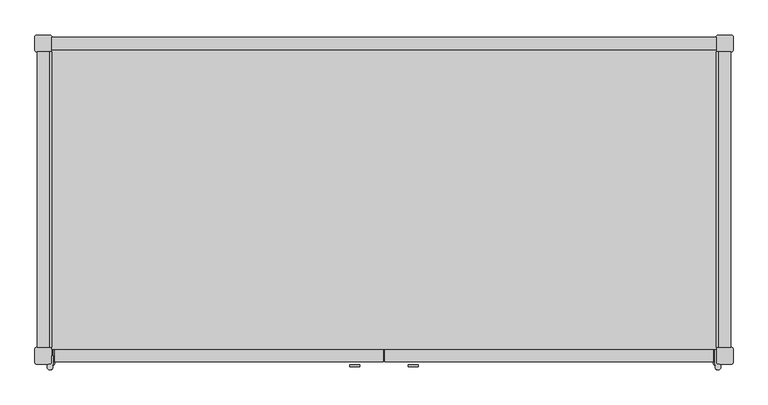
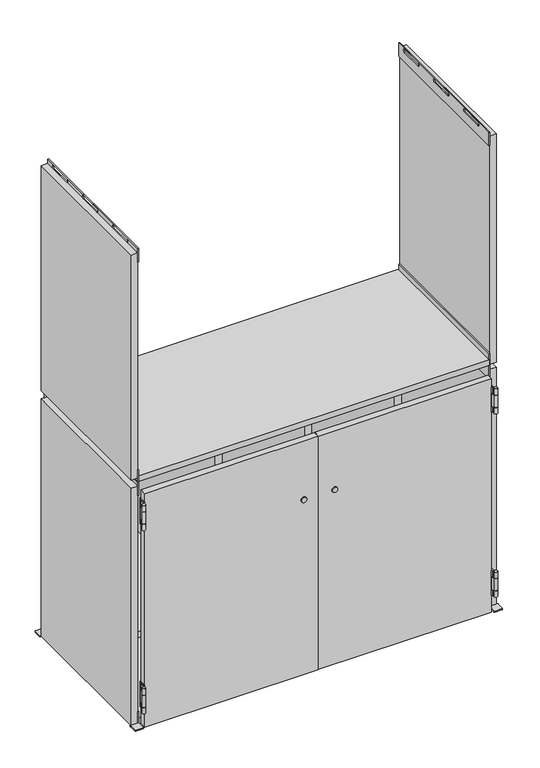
"""IFC4 building model written with IfcOpenShell, lengths in millimetres: furniture geometry, SmithSystem_AM_Storage_Education_Constellate_Stacking_DoubleMidCluster : Upper Cubbies + Lower Cubbies."""

from ifc_helpers import new_model, si_unit, point, frame, frame_2d, origin, place, context, project, spatial, polyline, circle_curve, trimmed, segment, composite_curve, outline, extrude, source, transform, mapped, element, save
from ifc_brep_helpers import plane_surface, cylinder_surface, revolved_surface, advanced_brep


def furniture_67cf47fb(model_context):
    return source(origin(), model_context, "Body", "SolidModel", [
        advanced_brep(
        [(-505.46, -247.65, 666.75), (-505.46, -236.22, 666.75), (-502.92, -236.22, 666.75), (-502.92, -247.65, 666.75), (-504.444, -250.698, 666.75), (-508.0, -248.92, 666.75), (-506.73, -248.92, 666.75), (-505.46, -247.65, 685.8), (-506.73, -248.92, 685.8), (-508.0, -248.92, 685.8), (-504.444, -250.698, 685.8), (-502.92, -247.65, 685.8), (-502.92, -236.22, 685.8), (-505.46, -236.22, 685.8)],
        [
            (0, 1),
            (1, 2),
            (2, 3),
            (3, 4, circle_curve(frame((-506.73, -247.65, 666.75), z_axis=(0.0, 0.0, -1.0), x_axis=(0.0, 1.0, 0.0)), 3.81)),
            (4, 5, circle_curve(frame((-508.0, -253.365, 666.75), z_axis=(0.0, 0.0, -1.0), x_axis=(0.0, 1.0, 0.0)), 4.445)),
            (5, 6),
            (6, 0, circle_curve(frame((-506.73, -247.65, 666.75), z_axis=(0.0, 0.0, 1.0), x_axis=(0.0, 1.0, 0.0)), 1.27)),
            (7, 8, circle_curve(frame((-506.73, -247.65, 685.8), z_axis=(0.0, 0.0, -1.0), x_axis=(0.0, 1.0, 0.0)), 1.27)),
            (8, 9),
            (9, 10, circle_curve(frame((-508.0, -253.365, 685.8), z_axis=(0.0, 0.0, 1.0), x_axis=(0.0, 1.0, 0.0)), 4.445)),
            (10, 11, circle_curve(frame((-506.73, -247.65, 685.8), z_axis=(0.0, 0.0, 1.0), x_axis=(0.0, 1.0, 0.0)), 3.81)),
            (11, 12),
            (12, 13),
            (13, 7),
            (2, 12),
            (11, 3),
            (1, 13),
            (0, 7),
            (6, 8),
            (5, 9),
            (4, 10),
        ],
        [
            plane_surface(frame((-505.46, -236.22, 666.75), z_axis=(0.0, 0.0, -1.0), x_axis=(0.0, 1.0, 0.0))),
            plane_surface(frame((-505.46, -236.22, 685.8), z_axis=(0.0, 0.0, 1.0), x_axis=(0.0, -1.0, 0.0))),
            plane_surface(frame((-502.92, -236.22, 666.75), z_axis=(1.0, 0.0, 0.0), x_axis=(0.0, 0.0, 1.0))),
            plane_surface(frame((-505.46, -236.22, 666.75), z_axis=(0.0, 1.0, 0.0), x_axis=(0.0, 0.0, 1.0))),
            plane_surface(frame((-505.46, -247.65, 666.75), z_axis=(-1.0, 0.0, 0.0), x_axis=(0.0, 0.0, 1.0))),
            revolved_surface(polyline([(-506.73, -246.38, 685.8), (-506.73, -246.38, 666.75)]), (-506.73, -247.65, 685.8), (0.0, 0.0, 1.0)),
            plane_surface(frame((-508.0, -248.92, 666.75), z_axis=(0.0, 1.0, 0.0), x_axis=(0.0, 0.0, 1.0))),
            cylinder_surface(frame((-508.0, -253.365, 685.8), z_axis=(0.0, 0.0, -1.0), x_axis=(0.0, 1.0, 0.0)), 4.445),
            cylinder_surface(frame((-506.73, -247.65, 685.8), z_axis=(0.0, 0.0, -1.0), x_axis=(0.0, 1.0, 0.0)), 3.81),
        ],
        [
            (0, [[1, 2, 3, 4, 5, 6, 7]]),
            (1, [[8, 9, 10, 11, 12, 13, 14]]),
            (2, [[-3, 15, -12, 16]]),
            (3, [[-2, 17, -13, -15]]),
            (4, [[-1, 18, -14, -17]]),
            (5, [[-7, 19, -8, -18]]),
            (6, [[-6, 20, -9, -19]]),
            (7, [[-5, 21, -10, -20]]),
            (8, [[-4, -16, -11, -21]]),
        ],
    ),
        advanced_brep(
        [(504.444, -250.698, 666.75), (502.92, -247.65, 666.75), (502.92, -226.06, 666.75), (505.46, -226.06, 666.75), (505.46, -247.65, 666.75), (506.73, -248.92, 666.75), (508.0, -248.92, 666.75), (504.444, -250.698, 685.8), (508.0, -248.92, 685.8), (506.73, -248.92, 685.8), (505.46, -247.65, 685.8), (505.46, -245.11, 685.8), (502.92, -245.11, 685.8), (502.92, -247.65, 685.8), (505.46, -226.06, 742.95), (505.46, -247.65, 742.95), (505.46, -247.65, 723.9), (505.46, -245.11, 723.9), (502.92, -245.11, 723.9), (502.92, -247.65, 723.9), (502.92, -247.65, 742.95), (502.92, -226.06, 742.95), (504.444, -250.698, 742.95), (508.0, -248.92, 742.95), (506.73, -248.92, 742.95), (506.73, -248.92, 723.9), (508.0, -248.92, 723.9), (504.444, -250.698, 723.9)],
        [
            (0, 1, circle_curve(frame((506.73, -247.65, 666.75), z_axis=(0.0, 0.0, -1.0), x_axis=(0.0, 1.0, 0.0)), 3.81)),
            (1, 2),
            (2, 3),
            (3, 4),
            (4, 5, circle_curve(frame((506.73, -247.65, 666.75), z_axis=(0.0, 0.0, 1.0), x_axis=(0.0, 1.0, 0.0)), 1.27)),
            (5, 6),
            (6, 0, circle_curve(frame((508.0, -253.365, 666.75), z_axis=(0.0, 0.0, -1.0), x_axis=(0.0, 1.0, 0.0)), 4.445)),
            (7, 8, circle_curve(frame((508.0, -253.365, 685.8), z_axis=(0.0, 0.0, 1.0), x_axis=(0.0, 1.0, 0.0)), 4.445)),
            (8, 9),
            (9, 10, circle_curve(frame((506.73, -247.65, 685.8), z_axis=(0.0, 0.0, -1.0), x_axis=(0.0, 1.0, 0.0)), 1.27)),
            (10, 11),
            (11, 12),
            (12, 13),
            (13, 7, circle_curve(frame((506.73, -247.65, 685.8), z_axis=(0.0, 0.0, 1.0), x_axis=(0.0, 1.0, 0.0)), 3.81)),
            (5, 9),
            (8, 6),
            (4, 10),
            (3, 14),
            (14, 15),
            (15, 16),
            (16, 17),
            (17, 11),
            (1, 13),
            (12, 18),
            (18, 19),
            (19, 20),
            (20, 21),
            (21, 2),
            (7, 0),
            (20, 22, circle_curve(frame((506.73, -247.65, 742.95), z_axis=(0.0, 0.0, 1.0), x_axis=(0.0, 1.0, 0.0)), 3.81)),
            (22, 23, circle_curve(frame((508.0, -253.365, 742.95), z_axis=(0.0, 0.0, 1.0), x_axis=(0.0, 1.0, 0.0)), 4.445)),
            (23, 24),
            (24, 15, circle_curve(frame((506.73, -247.65, 742.95), z_axis=(0.0, 0.0, -1.0), x_axis=(0.0, 1.0, 0.0)), 1.27)),
            (14, 21),
            (16, 25, circle_curve(frame((506.73, -247.65, 723.9), z_axis=(0.0, 0.0, 1.0), x_axis=(0.0, 1.0, 0.0)), 1.27)),
            (25, 26),
            (26, 27, circle_curve(frame((508.0, -253.365, 723.9), z_axis=(0.0, 0.0, -1.0), x_axis=(0.0, 1.0, 0.0)), 4.445)),
            (27, 19, circle_curve(frame((506.73, -247.65, 723.9), z_axis=(0.0, 0.0, -1.0), x_axis=(0.0, 1.0, 0.0)), 3.81)),
            (18, 17),
            (23, 26),
            (25, 24),
            (22, 27),
        ],
        [
            plane_surface(frame((-505.46, -236.22, 666.75), z_axis=(0.0, 0.0, -1.0), x_axis=(0.0, 1.0, 0.0))),
            plane_surface(frame((-505.46, -236.22, 685.8), z_axis=(0.0, 0.0, 1.0), x_axis=(0.0, -1.0, 0.0))),
            plane_surface(frame((506.73, -248.92, 666.75), z_axis=(0.0, 1.0, 0.0), x_axis=(0.0, 0.0, 1.0))),
            revolved_surface(polyline([(506.73, -246.38, 685.8), (506.73, -246.38, 666.75)]), (506.73, -247.65, 666.75), (0.0, 0.0, 1.0)),
            plane_surface(frame((505.46, -236.22, 666.75), z_axis=(1.0, 0.0, 0.0), x_axis=(0.0, 0.0, 1.0))),
            plane_surface(frame((502.92, -247.65, 666.75), z_axis=(-1.0, 0.0, 0.0), x_axis=(0.0, 0.0, 1.0))),
            cylinder_surface(frame((508.0, -253.365, 666.75), z_axis=(0.0, 0.0, -1.0), x_axis=(0.0, 1.0, 0.0)), 4.445),
            plane_surface(frame((-508.0, -248.92, 742.95), z_axis=(0.0, 0.0, 1.0), x_axis=(-1.0, 0.0, 0.0))),
            plane_surface(frame((-508.0, -248.92, 723.9), z_axis=(0.0, 0.0, -1.0), x_axis=(1.0, 0.0, 0.0))),
            plane_surface(frame((506.73, -248.92, 723.9), z_axis=(0.0, 1.0, 0.0), x_axis=(0.0, 0.0, 1.0))),
            revolved_surface(polyline([(506.73, -246.38, 742.95), (506.73, -246.38, 723.9)]), (506.73, -247.65, 666.75), (0.0, 0.0, 1.0)),
            plane_surface(frame((505.46, -226.06, 666.75), z_axis=(0.0, 1.0, 0.0), x_axis=(-1.0, 0.0, 0.0))),
            plane_surface(frame((505.46, -245.11, 742.95), z_axis=(0.0, -1.0, 0.0), x_axis=(-1.0, 0.0, 0.0))),
            cylinder_surface(frame((506.73, -247.65, 666.75), z_axis=(0.0, 0.0, -1.0), x_axis=(0.0, 1.0, 0.0)), 3.81),
        ],
        [
            (0, [[1, 2, 3, 4, 5, 6, 7]]),
            (1, [[8, 9, 10, 11, 12, 13, 14]]),
            (2, [[-6, 15, -9, 16]]),
            (3, [[-5, 17, -10, -15]]),
            (4, [[-17, -4, 18, 19, 20, 21, 22, -11]]),
            (5, [[-2, 23, -13, 24, 25, 26, 27, 28]]),
            (6, [[-7, -16, -8, 29]]),
            (7, [[-27, 30, 31, 32, 33, -19, 34]]),
            (8, [[35, 36, 37, 38, -25, 39, -21]]),
            (9, [[-32, 40, -36, 41]]),
            (10, [[-33, -41, -35, -20]]),
            (6, [[-31, 42, -37, -40]]),
            (11, [[-28, -34, -18, -3]]),
            (12, [[-24, -12, -22, -39]]),
            (13, [[-30, -26, -38, -42]]),
            (13, [[-1, -29, -14, -23]]),
        ],
    ),
        advanced_brep(
        [(505.46, -226.06, 107.95), (505.46, -226.06, 184.15), (505.46, -247.65, 184.15), (505.46, -247.65, 165.1), (505.46, -245.11, 165.1), (505.46, -245.11, 127.0), (505.46, -247.65, 127.0), (505.46, -247.65, 107.95), (502.92, -226.06, 184.15), (502.92, -226.06, 107.95), (502.92, -247.65, 107.95), (502.92, -247.65, 127.0), (502.92, -245.11, 127.0), (502.92, -245.11, 165.1), (502.92, -247.65, 165.1), (502.92, -247.65, 184.15), (504.444, -250.698, 184.15), (508.0, -248.92, 184.15), (506.73, -248.92, 184.15), (506.73, -248.92, 165.1), (508.0, -248.92, 165.1), (504.444, -250.698, 165.1), (504.444, -250.698, 127.0), (508.0, -248.92, 127.0), (506.73, -248.92, 127.0), (504.444, -250.698, 107.95), (506.73, -248.92, 107.95), (508.0, -248.92, 107.95)],
        [
            (0, 1),
            (1, 2),
            (2, 3),
            (3, 4),
            (4, 5),
            (5, 6),
            (6, 7),
            (7, 0),
            (8, 9),
            (9, 10),
            (10, 11),
            (11, 12),
            (12, 13),
            (13, 14),
            (14, 15),
            (15, 8),
            (15, 16, circle_curve(frame((506.73, -247.65, 184.15), z_axis=(0.0, 0.0, 1.0), x_axis=(1.0, 0.0, 0.0)), 3.81)),
            (16, 17, circle_curve(frame((508.0, -253.365, 184.15), z_axis=(0.0, 0.0, 1.0), x_axis=(1.0, 0.0, 0.0)), 4.445)),
            (17, 18),
            (18, 2, circle_curve(frame((506.73, -247.65, 184.15), z_axis=(0.0, 0.0, -1.0), x_axis=(1.0, 0.0, 0.0)), 1.27)),
            (1, 8),
            (3, 19, circle_curve(frame((506.73, -247.65, 165.1), z_axis=(0.0, 0.0, 1.0), x_axis=(1.0, 0.0, 0.0)), 1.27)),
            (19, 20),
            (20, 21, circle_curve(frame((508.0, -253.365, 165.1), z_axis=(0.0, 0.0, -1.0), x_axis=(1.0, 0.0, 0.0)), 4.445)),
            (21, 14, circle_curve(frame((506.73, -247.65, 165.1), z_axis=(0.0, 0.0, -1.0), x_axis=(1.0, 0.0, 0.0)), 3.81)),
            (13, 4),
            (22, 23, circle_curve(frame((508.0, -253.365, 127.0), z_axis=(0.0, 0.0, 1.0), x_axis=(1.0, 0.0, 0.0)), 4.445)),
            (23, 24),
            (24, 6, circle_curve(frame((506.73, -247.65, 127.0), z_axis=(0.0, 0.0, -1.0), x_axis=(1.0, 0.0, 0.0)), 1.27)),
            (5, 12),
            (11, 22, circle_curve(frame((506.73, -247.65, 127.0), z_axis=(0.0, 0.0, 1.0), x_axis=(1.0, 0.0, 0.0)), 3.81)),
            (25, 10, circle_curve(frame((506.73, -247.65, 107.95), z_axis=(0.0, 0.0, -1.0), x_axis=(1.0, 0.0, 0.0)), 3.81)),
            (9, 0),
            (7, 26, circle_curve(frame((506.73, -247.65, 107.95), z_axis=(0.0, 0.0, 1.0), x_axis=(1.0, 0.0, 0.0)), 1.27)),
            (26, 27),
            (27, 25, circle_curve(frame((508.0, -253.365, 107.95), z_axis=(0.0, 0.0, -1.0), x_axis=(1.0, 0.0, 0.0)), 4.445)),
            (23, 27),
            (26, 24),
            (22, 25),
            (21, 16),
            (20, 17),
            (19, 18),
        ],
        [
            plane_surface(frame((505.46, -236.22, 666.75), z_axis=(1.0, 0.0, 0.0), x_axis=(0.0, 0.0, 1.0))),
            plane_surface(frame((502.92, -247.65, 666.75), z_axis=(-1.0, 0.0, 0.0), x_axis=(0.0, 0.0, 1.0))),
            plane_surface(frame((-505.46, -247.65, 184.15), z_axis=(0.0, 0.0, 1.0), x_axis=(0.0, -1.0, 0.0))),
            plane_surface(frame((-505.46, -247.65, 165.1), z_axis=(0.0, 0.0, -1.0), x_axis=(0.0, 1.0, 0.0))),
            plane_surface(frame((-502.92, -247.65, 127.0), z_axis=(0.0, 0.0, 1.0), x_axis=(0.0, 1.0, 0.0))),
            plane_surface(frame((-502.92, -247.65, 107.95), z_axis=(0.0, 0.0, -1.0), x_axis=(0.0, -1.0, 0.0))),
            plane_surface(frame((508.0, -248.92, 127.0), z_axis=(0.0, 1.0, 0.0), x_axis=(0.0, 0.0, -1.0))),
            revolved_surface(polyline([(508.0, -247.65, 107.95), (508.0, -247.65, 127.0)]), (506.73, -247.65, 0.0), (0.0, 0.0, -1.0)),
            cylinder_surface(frame((508.0, -253.365, 0.0), z_axis=(0.0, 0.0, 1.0), x_axis=(1.0, 0.0, 0.0)), 4.445),
            cylinder_surface(frame((506.73, -247.65, 0.0), z_axis=(0.0, 0.0, 1.0), x_axis=(1.0, 0.0, 0.0)), 3.81),
            plane_surface(frame((508.0, -248.92, 184.15), z_axis=(0.0, 1.0, 0.0), x_axis=(0.0, 0.0, -1.0))),
            revolved_surface(polyline([(508.0, -247.65, 165.1), (508.0, -247.65, 184.15)]), (506.73, -247.65, 0.0), (0.0, 0.0, -1.0)),
            plane_surface(frame((505.46, -226.06, 107.95), z_axis=(0.0, 1.0, 0.0), x_axis=(-1.0, 0.0, 0.0))),
            plane_surface(frame((505.46, -245.11, 184.15), z_axis=(0.0, -1.0, 0.0), x_axis=(-1.0, 0.0, 0.0))),
        ],
        [
            (0, [[1, 2, 3, 4, 5, 6, 7, 8]]),
            (1, [[9, 10, 11, 12, 13, 14, 15, 16]]),
            (2, [[-16, 17, 18, 19, 20, -2, 21]]),
            (3, [[22, 23, 24, 25, -14, 26, -4]]),
            (4, [[27, 28, 29, -6, 30, -12, 31]]),
            (5, [[32, -10, 33, -8, 34, 35, 36]]),
            (6, [[-28, 37, -35, 38]]),
            (7, [[-29, -38, -34, -7]]),
            (8, [[-27, 39, -36, -37]]),
            (9, [[-17, -15, -25, 40]]),
            (8, [[-18, -40, -24, 41]]),
            (10, [[-19, -41, -23, 42]]),
            (11, [[-20, -42, -22, -3]]),
            (12, [[-9, -21, -1, -33]]),
            (13, [[-5, -26, -13, -30]]),
            (9, [[-31, -11, -32, -39]]),
        ],
    ),
        advanced_brep(
        [(-504.444, -250.698, 742.95), (-502.92, -247.65, 742.95), (-502.92, -236.22, 742.95), (-505.46, -236.22, 742.95), (-505.46, -247.65, 742.95), (-506.73, -248.92, 742.95), (-508.0, -248.92, 742.95), (-504.444, -250.698, 723.9), (-508.0, -248.92, 723.9), (-506.73, -248.92, 723.9), (-505.46, -247.65, 723.9), (-505.46, -236.22, 723.9), (-502.92, -236.22, 723.9), (-502.92, -247.65, 723.9)],
        [
            (0, 1, circle_curve(frame((-506.73, -247.65, 742.95), z_axis=(0.0, 0.0, 1.0), x_axis=(0.0, 1.0, 0.0)), 3.81)),
            (1, 2),
            (2, 3),
            (3, 4),
            (4, 5, circle_curve(frame((-506.73, -247.65, 742.95), z_axis=(0.0, 0.0, -1.0), x_axis=(0.0, 1.0, 0.0)), 1.27)),
            (5, 6),
            (6, 0, circle_curve(frame((-508.0, -253.365, 742.95), z_axis=(0.0, 0.0, 1.0), x_axis=(0.0, 1.0, 0.0)), 4.445)),
            (7, 8, circle_curve(frame((-508.0, -253.365, 723.9), z_axis=(0.0, 0.0, -1.0), x_axis=(0.0, 1.0, 0.0)), 4.445)),
            (8, 9),
            (9, 10, circle_curve(frame((-506.73, -247.65, 723.9), z_axis=(0.0, 0.0, 1.0), x_axis=(0.0, 1.0, 0.0)), 1.27)),
            (10, 11),
            (11, 12),
            (12, 13),
            (13, 7, circle_curve(frame((-506.73, -247.65, 723.9), z_axis=(0.0, 0.0, -1.0), x_axis=(0.0, 1.0, 0.0)), 3.81)),
            (6, 8),
            (7, 0),
            (1, 13),
            (12, 2),
            (11, 3),
            (10, 4),
            (9, 5),
        ],
        [
            plane_surface(frame((-508.0, -248.92, 742.95), z_axis=(0.0, 0.0, 1.0), x_axis=(-1.0, 0.0, 0.0))),
            plane_surface(frame((-508.0, -248.92, 723.9), z_axis=(0.0, 0.0, -1.0), x_axis=(1.0, 0.0, 0.0))),
            cylinder_surface(frame((-508.0, -253.365, 742.95), z_axis=(0.0, 0.0, -1.0), x_axis=(0.0, 1.0, 0.0)), 4.445),
            plane_surface(frame((-502.92, -236.22, 723.9), z_axis=(1.0, 1.0125233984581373e-12, 0.0), x_axis=(0.0, 0.0, 1.0))),
            plane_surface(frame((-505.46, -236.22, 723.9), z_axis=(0.0, 1.0, 0.0), x_axis=(0.0, 0.0, 1.0))),
            plane_surface(frame((-505.46, -247.65, 723.9), z_axis=(-1.0, 0.0, 0.0), x_axis=(0.0, 0.0, 1.0))),
            revolved_surface(polyline([(-506.73, -246.38, 742.95), (-506.73, -246.38, 723.9)]), (-506.73, -247.65, 742.95), (0.0, 0.0, 1.0)),
            plane_surface(frame((-508.0, -248.92, 723.9), z_axis=(0.0, 1.0, 0.0), x_axis=(0.0, 0.0, 1.0))),
            cylinder_surface(frame((-506.73, -247.65, 742.95), z_axis=(0.0, 0.0, -1.0), x_axis=(0.0, 1.0, 0.0)), 3.81),
        ],
        [
            (0, [[1, 2, 3, 4, 5, 6, 7]]),
            (1, [[8, 9, 10, 11, 12, 13, 14]]),
            (2, [[-7, 15, -8, 16]]),
            (3, [[-2, 17, -13, 18]]),
            (4, [[-3, -18, -12, 19]]),
            (5, [[-4, -19, -11, 20]]),
            (6, [[-5, -20, -10, 21]]),
            (7, [[-6, -21, -9, -15]]),
            (8, [[-1, -16, -14, -17]]),
        ],
    ),
        advanced_brep(
        [(-505.46, -247.65, 184.15), (-506.73, -248.92, 184.15), (-508.0, -248.92, 184.15), (-504.444, -250.698, 184.15), (-502.92, -247.65, 184.15), (-502.92, -236.22, 184.15), (-505.46, -236.22, 184.15), (-505.46, -247.65, 165.1), (-505.46, -236.22, 165.1), (-502.92, -236.22, 165.1), (-502.92, -247.65, 165.1), (-504.444, -250.698, 165.1), (-508.0, -248.92, 165.1), (-506.73, -248.92, 165.1)],
        [
            (0, 1, circle_curve(frame((-506.73, -247.65, 184.15), z_axis=(0.0, 0.0, -1.0), x_axis=(1.0, 0.0, 0.0)), 1.27)),
            (1, 2),
            (2, 3, circle_curve(frame((-508.0, -253.365, 184.15), z_axis=(0.0, 0.0, 1.0), x_axis=(1.0, 0.0, 0.0)), 4.445)),
            (3, 4, circle_curve(frame((-506.73, -247.65, 184.15), z_axis=(0.0, 0.0, 1.0), x_axis=(1.0, 0.0, 0.0)), 3.81)),
            (4, 5),
            (5, 6),
            (6, 0),
            (7, 8),
            (8, 9),
            (9, 10),
            (10, 11, circle_curve(frame((-506.73, -247.65, 165.1), z_axis=(0.0, 0.0, -1.0), x_axis=(1.0, 0.0, 0.0)), 3.81)),
            (11, 12, circle_curve(frame((-508.0, -253.365, 165.1), z_axis=(0.0, 0.0, -1.0), x_axis=(1.0, 0.0, 0.0)), 4.445)),
            (12, 13),
            (13, 7, circle_curve(frame((-506.73, -247.65, 165.1), z_axis=(0.0, 0.0, 1.0), x_axis=(1.0, 0.0, 0.0)), 1.27)),
            (4, 10),
            (9, 5),
            (8, 6),
            (7, 0),
            (13, 1),
            (12, 2),
            (11, 3),
        ],
        [
            plane_surface(frame((-505.46, -247.65, 184.15), z_axis=(0.0, 0.0, 1.0), x_axis=(0.0, -1.0, 0.0))),
            plane_surface(frame((-505.46, -247.65, 165.1), z_axis=(0.0, 0.0, -1.0), x_axis=(0.0, 1.0, 0.0))),
            plane_surface(frame((-502.92, -247.65, 184.15), z_axis=(1.0, 0.0, 0.0), x_axis=(0.0, 0.0, -1.0))),
            plane_surface(frame((-502.92, -236.22, 184.15), z_axis=(-1.3056222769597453e-12, 1.0, 0.0), x_axis=(0.0, 0.0, -1.0))),
            plane_surface(frame((-505.46, -236.22, 184.15), z_axis=(-1.0, 0.0, 0.0), x_axis=(0.0, 0.0, -1.0))),
            revolved_surface(polyline([(-505.46000000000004, -247.65, 165.1), (-505.46000000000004, -247.65, 184.15)]), (-506.73, -247.65, 165.1), (0.0, 0.0, -1.0)),
            plane_surface(frame((-506.73, -248.92, 184.15), z_axis=(0.0, 1.0, 0.0), x_axis=(0.0, 0.0, -1.0))),
            cylinder_surface(frame((-508.0, -253.365, 165.1), z_axis=(0.0, 0.0, 1.0), x_axis=(1.0, 0.0, 0.0)), 4.445),
            cylinder_surface(frame((-506.73, -247.65, 165.1), z_axis=(0.0, 0.0, 1.0), x_axis=(1.0, 0.0, 0.0)), 3.81),
        ],
        [
            (0, [[1, 2, 3, 4, 5, 6, 7]]),
            (1, [[8, 9, 10, 11, 12, 13, 14]]),
            (2, [[-5, 15, -10, 16]]),
            (3, [[-6, -16, -9, 17]]),
            (4, [[-7, -17, -8, 18]]),
            (5, [[-1, -18, -14, 19]]),
            (6, [[-2, -19, -13, 20]]),
            (7, [[-3, -20, -12, 21]]),
            (8, [[-4, -21, -11, -15]]),
        ],
    ),
        advanced_brep(
        [(-504.444, -250.698, 127.0), (-502.92, -247.65, 127.0), (-502.92, -236.22, 127.0), (-505.46, -236.22, 127.0), (-505.46, -247.65, 127.0), (-506.73, -248.92, 127.0), (-508.0, -248.92, 127.0), (-504.444, -250.698, 107.95), (-508.0, -248.92, 107.95), (-506.73, -248.92, 107.95), (-505.46, -247.65, 107.95), (-505.46, -236.22, 107.95), (-502.92, -236.22, 107.95), (-502.92, -247.65, 107.95)],
        [
            (0, 1, circle_curve(frame((-506.73, -247.65, 127.0), z_axis=(0.0, 0.0, 1.0), x_axis=(1.0, 0.0, 0.0)), 3.81)),
            (1, 2),
            (2, 3),
            (3, 4),
            (4, 5, circle_curve(frame((-506.73, -247.65, 127.0), z_axis=(0.0, 0.0, -1.0), x_axis=(1.0, 0.0, 0.0)), 1.27)),
            (5, 6),
            (6, 0, circle_curve(frame((-508.0, -253.365, 127.0), z_axis=(0.0, 0.0, 1.0), x_axis=(1.0, 0.0, 0.0)), 4.445)),
            (7, 8, circle_curve(frame((-508.0, -253.365, 107.95), z_axis=(0.0, 0.0, -1.0), x_axis=(1.0, 0.0, 0.0)), 4.445)),
            (8, 9),
            (9, 10, circle_curve(frame((-506.73, -247.65, 107.95), z_axis=(0.0, 0.0, 1.0), x_axis=(1.0, 0.0, 0.0)), 1.27)),
            (10, 11),
            (11, 12),
            (12, 13),
            (13, 7, circle_curve(frame((-506.73, -247.65, 107.95), z_axis=(0.0, 0.0, -1.0), x_axis=(1.0, 0.0, 0.0)), 3.81)),
            (6, 8),
            (7, 0),
            (1, 13),
            (12, 2),
            (11, 3),
            (10, 4),
            (9, 5),
        ],
        [
            plane_surface(frame((-502.92, -247.65, 127.0), z_axis=(0.0, 0.0, 1.0), x_axis=(0.0, 1.0, 0.0))),
            plane_surface(frame((-502.92, -247.65, 107.95), z_axis=(0.0, 0.0, -1.0), x_axis=(0.0, -1.0, 0.0))),
            cylinder_surface(frame((-508.0, -253.365, 107.95), z_axis=(0.0, 0.0, 1.0), x_axis=(1.0, 0.0, 0.0)), 4.445),
            plane_surface(frame((-502.92, -247.65, 127.0), z_axis=(1.0, 1.3796371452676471e-12, 0.0), x_axis=(0.0, 0.0, -1.0))),
            plane_surface(frame((-502.92, -236.22, 127.0), z_axis=(-1.3056222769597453e-12, 1.0, 0.0), x_axis=(0.0, 0.0, -1.0))),
            plane_surface(frame((-505.46, -236.22, 127.0), z_axis=(-1.0, 0.0, 0.0), x_axis=(0.0, 0.0, -1.0))),
            revolved_surface(polyline([(-505.46000000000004, -247.65, 107.95), (-505.46000000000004, -247.65, 127.0)]), (-506.73, -247.65, 107.95), (0.0, 0.0, -1.0)),
            plane_surface(frame((-506.73, -248.92, 127.0), z_axis=(0.0, 1.0, 0.0), x_axis=(0.0, 0.0, -1.0))),
            cylinder_surface(frame((-506.73, -247.65, 107.95), z_axis=(0.0, 0.0, 1.0), x_axis=(1.0, 0.0, 0.0)), 3.81),
        ],
        [
            (0, [[1, 2, 3, 4, 5, 6, 7]]),
            (1, [[8, 9, 10, 11, 12, 13, 14]]),
            (2, [[-7, 15, -8, 16]]),
            (3, [[-2, 17, -13, 18]]),
            (4, [[-3, -18, -12, 19]]),
            (5, [[-4, -19, -11, 20]]),
            (6, [[-5, -20, -10, 21]]),
            (7, [[-6, -21, -9, -15]]),
            (8, [[-1, -16, -14, -17]]),
        ],
    ),
        extrude(outline(composite_curve([segment(polyline([(-500.38, -245.11), (-502.92, -245.11), (-502.92, -226.06)]), True, "CONTINUOUS"), segment(trimmed(circle_curve(frame_2d((-500.38, -226.06)), 2.54), [point((-502.92, -226.06))], [point((-500.38, -223.52))], False, "CARTESIAN"), True, "CONTINUOUS"), segment(polyline([(-500.38, -223.52), (-480.06, -223.52), (-480.06, -226.06), (-500.38, -226.06), (-500.38, -245.11)]), True, "CONTINUOUS")], self_intersect=False)), frame((0.0, 0.0, 666.75), z_axis=(0.0, 0.0, 1.0), x_axis=(1.0, 0.0, 0.0)), (0.0, 0.0, 1.0), 76.2),
        extrude(outline(composite_curve([segment(polyline([(500.38, -245.11), (500.38, -226.06), (480.06, -226.06), (480.06, -223.52), (500.38, -223.52)]), True, "CONTINUOUS"), segment(trimmed(circle_curve(frame_2d((500.38, -226.06)), 2.54), [point((500.38, -223.52))], [point((502.92, -226.06))], False, "CARTESIAN"), True, "CONTINUOUS"), segment(polyline([(502.92, -226.06), (502.92, -245.11), (500.38, -245.11)]), True, "CONTINUOUS")], self_intersect=False)), frame((0.0, 0.0, 666.75), z_axis=(0.0, 0.0, 1.0), x_axis=(1.0, 0.0, 0.0)), (0.0, 0.0, 1.0), 76.2),
        extrude(outline(composite_curve([segment(polyline([(-480.06, -226.06), (-500.38, -226.06), (-500.38, -245.11), (-502.92, -245.11), (-502.92, -226.06)]), True, "CONTINUOUS"), segment(trimmed(circle_curve(frame_2d((-500.38, -226.06)), 2.54), [point((-502.92, -226.06))], [point((-500.38, -223.52))], False, "CARTESIAN"), True, "CONTINUOUS"), segment(polyline([(-500.38, -223.52), (-480.06, -223.52), (-480.06, -226.06)]), True, "CONTINUOUS")], self_intersect=False)), frame((0.0, 0.0, 107.95), z_axis=(0.0, 0.0, 1.0), x_axis=(1.0, 0.0, 0.0)), (0.0, 0.0, 1.0), 76.2),
        extrude(outline(composite_curve([segment(polyline([(480.06, -226.06), (480.06, -223.52), (500.38, -223.52)]), True, "CONTINUOUS"), segment(trimmed(circle_curve(frame_2d((500.38, -226.06)), 2.54), [point((500.38, -223.52))], [point((502.92, -226.06))], False, "CARTESIAN"), True, "CONTINUOUS"), segment(polyline([(502.92, -226.06), (502.92, -245.11), (500.38, -245.11), (500.38, -226.06), (480.06, -226.06)]), True, "CONTINUOUS")], self_intersect=False)), frame((0.0, 0.0, 107.95), z_axis=(0.0, 0.0, 1.0), x_axis=(1.0, 0.0, 0.0)), (0.0, 0.0, 1.0), 76.2),
        extrude(outline(composite_curve([segment(trimmed(circle_curve(frame_2d((-505.46, -246.38)), 5.08), [point((-500.38, -246.38))], [point((-504.0801916, -251.2690212))], False, "CARTESIAN"), True, "CONTINUOUS"), segment(trimmed(circle_curve(frame_2d((-508.0, -253.365)), 4.445), [point((-504.0801916, -251.2690212))], [point((-508.0, -248.92))], False, "CARTESIAN"), True, "CONTINUOUS"), segment(polyline([(-508.0, -248.92), (-505.46, -248.92)]), True, "CONTINUOUS"), segment(trimmed(circle_curve(frame_2d((-505.46, -246.38)), 2.54), [point((-505.46, -248.92))], [point((-502.92, -246.38))], True, "CARTESIAN"), True, "CONTINUOUS"), segment(polyline([(-502.92, -246.38), (-502.92, -236.22), (-500.38, -236.22), (-500.38, -246.38)]), True, "CONTINUOUS")], self_intersect=False)), frame((0.0, 0.0, 685.8), z_axis=(0.0, 0.0, 1.0), x_axis=(1.0, 0.0, 0.0)), (0.0, 0.0, 1.0), 38.1),
        extrude(outline(composite_curve([segment(polyline([(500.38, -246.38), (500.38, -236.22), (502.92, -236.22), (502.92, -246.38)]), True, "CONTINUOUS"), segment(trimmed(circle_curve(frame_2d((505.46, -246.38)), 2.54), [point((502.92, -246.38))], [point((505.46, -248.92))], True, "CARTESIAN"), True, "CONTINUOUS"), segment(polyline([(505.46, -248.92), (508.0, -248.92)]), True, "CONTINUOUS"), segment(trimmed(circle_curve(frame_2d((508.0, -253.365)), 4.445), [point((508.0, -248.92))], [point((504.0801916, -251.2690212))], False, "CARTESIAN"), True, "CONTINUOUS"), segment(trimmed(circle_curve(frame_2d((505.46, -246.38)), 5.08), [point((504.0801916, -251.2690212))], [point((500.38, -246.38))], False, "CARTESIAN"), True, "CONTINUOUS")], self_intersect=False)), frame((0.0, 0.0, 685.8), z_axis=(0.0, 0.0, 1.0), x_axis=(1.0, 0.0, 0.0)), (0.0, 0.0, 1.0), 38.1),
        extrude(outline(composite_curve([segment(trimmed(circle_curve(frame_2d((-505.46, -246.38)), 5.08), [point((-500.38, -246.38))], [point((-504.0801916, -251.2690212))], False, "CARTESIAN"), True, "CONTINUOUS"), segment(trimmed(circle_curve(frame_2d((-508.0, -253.365)), 4.445), [point((-504.0801916, -251.2690212))], [point((-508.0, -248.92))], False, "CARTESIAN"), True, "CONTINUOUS"), segment(polyline([(-508.0, -248.92), (-505.46, -248.92)]), True, "CONTINUOUS"), segment(trimmed(circle_curve(frame_2d((-505.46, -246.38)), 2.54), [point((-505.46, -248.92))], [point((-502.92, -246.38))], True, "CARTESIAN"), True, "CONTINUOUS"), segment(polyline([(-502.92, -246.38), (-502.92, -236.22), (-500.38, -236.22), (-500.38, -246.38)]), True, "CONTINUOUS")], self_intersect=False)), frame((0.0, 0.0, 127.0), z_axis=(0.0, 0.0, 1.0), x_axis=(1.0, 0.0, 0.0)), (0.0, 0.0, 1.0), 38.1),
        extrude(outline(composite_curve([segment(polyline([(500.38, -246.38), (500.38, -236.22), (502.92, -236.22), (502.92, -246.38)]), True, "CONTINUOUS"), segment(trimmed(circle_curve(frame_2d((505.46, -246.38)), 2.54), [point((502.92, -246.38))], [point((505.46, -248.92))], True, "CARTESIAN"), True, "CONTINUOUS"), segment(polyline([(505.46, -248.92), (508.0, -248.92)]), True, "CONTINUOUS"), segment(trimmed(circle_curve(frame_2d((508.0, -253.365)), 4.445), [point((508.0, -248.92))], [point((504.0801916, -251.2690212))], False, "CARTESIAN"), True, "CONTINUOUS"), segment(trimmed(circle_curve(frame_2d((505.46, -246.38)), 5.08), [point((504.0801916, -251.2690212))], [point((500.38, -246.38))], False, "CARTESIAN"), True, "CONTINUOUS")], self_intersect=False)), frame((0.0, 0.0, 127.0), z_axis=(0.0, 0.0, 1.0), x_axis=(1.0, 0.0, 0.0)), (0.0, 0.0, 1.0), 38.1),
        extrude(outline(composite_curve([segment(trimmed(circle_curve(frame_2d((594.36, -44.45)), 7.62), [point((594.36, -36.83))], [point((594.36, -52.07))], False, "CARTESIAN"), True, "CONTINUOUS"), segment(trimmed(circle_curve(frame_2d((594.36, -44.45)), 7.62), [point((594.36, -52.07))], [point((594.36, -36.83))], False, "CARTESIAN"), True, "CONTINUOUS")], self_intersect=False)), frame((0.0, -252.73, 0.0), z_axis=(0.0, 1.0, 0.0), x_axis=(0.0, 0.0, 1.0)), (0.0, 0.0, 1.0), 2.54),
        extrude(outline(composite_curve([segment(trimmed(circle_curve(frame_2d((594.36, 44.45)), 7.62), [point((594.36, 52.07))], [point((594.36, 36.83))], False, "CARTESIAN"), True, "CONTINUOUS"), segment(trimmed(circle_curve(frame_2d((594.36, 44.45)), 7.62), [point((594.36, 36.83))], [point((594.36, 52.07))], False, "CARTESIAN"), True, "CONTINUOUS")], self_intersect=False)), frame((0.0, -252.73, 0.0), z_axis=(0.0, 1.0, 0.0), x_axis=(0.0, 0.0, 1.0)), (0.0, 0.0, 1.0), 2.54),
        extrude(outline(polyline([(500.38, -245.11), (1.27, -245.11), (1.27, -226.06), (500.38, -226.06), (500.38, -245.11)])), frame((0.0, 0.0, 57.15), z_axis=(0.0, 0.0, 1.0), x_axis=(1.0, 0.0, 0.0)), (0.0, 0.0, 1.0), 711.2),
        extrude(outline(polyline([(-500.38, -245.11), (-500.38, -226.06), (-1.27, -226.06), (-1.27, -245.11), (-500.38, -245.11)])), frame((0.0, 0.0, 57.15), z_axis=(0.0, 0.0, 1.0), x_axis=(1.0, 0.0, 0.0)), (0.0, 0.0, 1.0), 711.2),
        extrude(outline(polyline([(-223.52, 753.11), (-223.52, 793.75), (226.06, 793.75), (226.06, 753.11), (-223.52, 753.11)]), holes=[composite_curve([segment(trimmed(circle_curve(frame_2d((-17.78, 786.13)), 5.08), [point((-17.78, 791.21))], [point((-17.78, 781.05))], True, "CARTESIAN"), True, "CONTINUOUS"), segment(polyline([(-17.78, 781.05), (48.26, 781.05)]), True, "CONTINUOUS"), segment(trimmed(circle_curve(frame_2d((48.26, 786.13)), 5.08), [point((48.26, 781.05))], [point((48.26, 791.21))], True, "CARTESIAN"), True, "CONTINUOUS"), segment(polyline([(48.26, 791.21), (-17.78, 791.21)]), True, "CONTINUOUS")], self_intersect=False), composite_curve([segment(trimmed(circle_curve(frame_2d((132.08, 786.13)), 5.08), [point((132.08, 791.21))], [point((132.08, 781.05))], True, "CARTESIAN"), True, "CONTINUOUS"), segment(polyline([(132.08, 781.05), (198.12, 781.05)]), True, "CONTINUOUS"), segment(trimmed(circle_curve(frame_2d((198.12, 786.13)), 5.08), [point((198.12, 781.05))], [point((198.12, 791.21))], True, "CARTESIAN"), True, "CONTINUOUS"), segment(polyline([(198.12, 791.21), (132.08, 791.21)]), True, "CONTINUOUS")], self_intersect=False), composite_curve([segment(trimmed(circle_curve(frame_2d((-167.64, 786.13)), 5.08), [point((-167.64, 791.21))], [point((-167.64, 781.05))], True, "CARTESIAN"), True, "CONTINUOUS"), segment(polyline([(-167.64, 781.05), (-101.6, 781.05)]), True, "CONTINUOUS"), segment(trimmed(circle_curve(frame_2d((-101.6, 786.13)), 5.08), [point((-101.6, 781.05))], [point((-101.6, 791.21))], True, "CARTESIAN"), True, "CONTINUOUS"), segment(polyline([(-101.6, 791.21), (-167.64, 791.21)]), True, "CONTINUOUS")], self_intersect=False)]), frame((-508.0, 0.0, 0.0), z_axis=(1.0, 0.0, 0.0), x_axis=(0.0, 1.0, 0.0)), (0.0, 0.0, 1.0), 2.54),
        extrude(outline(polyline([(-223.52, 1464.31), (-223.52, 1504.95), (226.06, 1504.95), (226.06, 1464.31), (-223.52, 1464.31)]), holes=[composite_curve([segment(trimmed(circle_curve(frame_2d((-17.78, 1497.33)), 5.08), [point((-17.78, 1502.41))], [point((-17.78, 1492.25))], True, "CARTESIAN"), True, "CONTINUOUS"), segment(polyline([(-17.78, 1492.25), (48.26, 1492.25)]), True, "CONTINUOUS"), segment(trimmed(circle_curve(frame_2d((48.26, 1497.33)), 5.08), [point((48.26, 1492.25))], [point((48.26, 1502.41))], True, "CARTESIAN"), True, "CONTINUOUS"), segment(polyline([(48.26, 1502.41), (-17.78, 1502.41)]), True, "CONTINUOUS")], self_intersect=False), composite_curve([segment(trimmed(circle_curve(frame_2d((132.08, 1497.33)), 5.08), [point((132.08, 1502.41))], [point((132.08, 1492.25))], True, "CARTESIAN"), True, "CONTINUOUS"), segment(polyline([(132.08, 1492.25), (198.12, 1492.25)]), True, "CONTINUOUS"), segment(trimmed(circle_curve(frame_2d((198.12, 1497.33)), 5.08), [point((198.12, 1492.25))], [point((198.12, 1502.41))], True, "CARTESIAN"), True, "CONTINUOUS"), segment(polyline([(198.12, 1502.41), (132.08, 1502.41)]), True, "CONTINUOUS")], self_intersect=False), composite_curve([segment(trimmed(circle_curve(frame_2d((-167.64, 1497.33)), 5.08), [point((-167.64, 1502.41))], [point((-167.64, 1492.25))], True, "CARTESIAN"), True, "CONTINUOUS"), segment(polyline([(-167.64, 1492.25), (-101.6, 1492.25)]), True, "CONTINUOUS"), segment(trimmed(circle_curve(frame_2d((-101.6, 1497.33)), 5.08), [point((-101.6, 1492.25))], [point((-101.6, 1502.41))], True, "CARTESIAN"), True, "CONTINUOUS"), segment(polyline([(-101.6, 1502.41), (-167.64, 1502.41)]), True, "CONTINUOUS")], self_intersect=False)]), frame((-508.0, 0.0, 0.0), z_axis=(1.0, 0.0, 0.0), x_axis=(0.0, 1.0, 0.0)), (0.0, 0.0, 1.0), 2.54),
        extrude(outline(polyline([(-223.52, 793.75), (226.06, 793.75), (226.06, 753.11), (-223.52, 753.11), (-223.52, 793.75)]), holes=[composite_curve([segment(trimmed(circle_curve(frame_2d((132.08, 786.13)), 5.08), [point((132.08, 791.21))], [point((132.08, 781.05))], True, "CARTESIAN"), True, "CONTINUOUS"), segment(polyline([(132.08, 781.05), (198.12, 781.05)]), True, "CONTINUOUS"), segment(trimmed(circle_curve(frame_2d((198.12, 786.13)), 5.08), [point((198.12, 781.05))], [point((198.12, 791.21))], True, "CARTESIAN"), True, "CONTINUOUS"), segment(polyline([(198.12, 791.21), (132.08, 791.21)]), True, "CONTINUOUS")], self_intersect=False), composite_curve([segment(trimmed(circle_curve(frame_2d((-17.78, 786.13)), 5.08), [point((-17.78, 791.21))], [point((-17.78, 781.05))], True, "CARTESIAN"), True, "CONTINUOUS"), segment(polyline([(-17.78, 781.05), (48.26, 781.05)]), True, "CONTINUOUS"), segment(trimmed(circle_curve(frame_2d((48.26, 786.13)), 5.08), [point((48.26, 781.05))], [point((48.26, 791.21))], True, "CARTESIAN"), True, "CONTINUOUS"), segment(polyline([(48.26, 791.21), (-17.78, 791.21)]), True, "CONTINUOUS")], self_intersect=False), composite_curve([segment(trimmed(circle_curve(frame_2d((-167.64, 786.13)), 5.08), [point((-167.64, 791.21))], [point((-167.64, 781.05))], True, "CARTESIAN"), True, "CONTINUOUS"), segment(polyline([(-167.64, 781.05), (-101.6, 781.05)]), True, "CONTINUOUS"), segment(trimmed(circle_curve(frame_2d((-101.6, 786.13)), 5.08), [point((-101.6, 781.05))], [point((-101.6, 791.21))], True, "CARTESIAN"), True, "CONTINUOUS"), segment(polyline([(-101.6, 791.21), (-167.64, 791.21)]), True, "CONTINUOUS")], self_intersect=False)]), frame((505.46, 0.0, 0.0), z_axis=(1.0, 0.0, 0.0), x_axis=(0.0, 1.0, 0.0)), (0.0, 0.0, 1.0), 2.54),
        extrude(outline(polyline([(-223.52, 1504.95), (226.06, 1504.95), (226.06, 1464.31), (-223.52, 1464.31), (-223.52, 1504.95)]), holes=[composite_curve([segment(trimmed(circle_curve(frame_2d((132.08, 1497.33)), 5.08), [point((132.08, 1502.41))], [point((132.08, 1492.25))], True, "CARTESIAN"), True, "CONTINUOUS"), segment(polyline([(132.08, 1492.25), (198.12, 1492.25)]), True, "CONTINUOUS"), segment(trimmed(circle_curve(frame_2d((198.12, 1497.33)), 5.08), [point((198.12, 1492.25))], [point((198.12, 1502.41))], True, "CARTESIAN"), True, "CONTINUOUS"), segment(polyline([(198.12, 1502.41), (132.08, 1502.41)]), True, "CONTINUOUS")], self_intersect=False), composite_curve([segment(trimmed(circle_curve(frame_2d((-17.78, 1497.33)), 5.08), [point((-17.78, 1502.41))], [point((-17.78, 1492.25))], True, "CARTESIAN"), True, "CONTINUOUS"), segment(polyline([(-17.78, 1492.25), (48.26, 1492.25)]), True, "CONTINUOUS"), segment(trimmed(circle_curve(frame_2d((48.26, 1497.33)), 5.08), [point((48.26, 1492.25))], [point((48.26, 1502.41))], True, "CARTESIAN"), True, "CONTINUOUS"), segment(polyline([(48.26, 1502.41), (-17.78, 1502.41)]), True, "CONTINUOUS")], self_intersect=False), composite_curve([segment(trimmed(circle_curve(frame_2d((-167.64, 1497.33)), 5.08), [point((-167.64, 1502.41))], [point((-167.64, 1492.25))], True, "CARTESIAN"), True, "CONTINUOUS"), segment(polyline([(-167.64, 1492.25), (-101.6, 1492.25)]), True, "CONTINUOUS"), segment(trimmed(circle_curve(frame_2d((-101.6, 1497.33)), 5.08), [point((-101.6, 1492.25))], [point((-101.6, 1502.41))], True, "CARTESIAN"), True, "CONTINUOUS"), segment(polyline([(-101.6, 1502.41), (-167.64, 1502.41)]), True, "CONTINUOUS")], self_intersect=False)]), frame((505.46, 0.0, 0.0), z_axis=(1.0, 0.0, 0.0), x_axis=(0.0, 1.0, 0.0)), (0.0, 0.0, 1.0), 2.54),
        extrude(outline(polyline([(-9.525, -187.96), (-249.2375, -187.96), (-249.2375, 226.06), (-9.525, 226.06), (-9.525, -187.96)])), frame((0.0, 0.0, 289.1409), z_axis=(0.0, 0.0, 1.0), x_axis=(1.0, 0.0, 0.0)), (0.0, 0.0, 1.0), 19.05),
        extrude(outline(polyline([(249.2375, -187.96), (9.525, -187.96), (9.525, 226.06), (249.2375, 226.06), (249.2375, -187.96)])), frame((0.0, 0.0, 289.1409), z_axis=(0.0, 0.0, 1.0), x_axis=(1.0, 0.0, 0.0)), (0.0, 0.0, 1.0), 19.05),
        extrude(outline(polyline([(508.0, -187.96), (268.2875, -187.96), (268.2875, 226.06), (508.0, 226.06), (508.0, -187.96)])), frame((0.0, 0.0, 289.1409), z_axis=(0.0, 0.0, 1.0), x_axis=(1.0, 0.0, 0.0)), (0.0, 0.0, 1.0), 19.05),
        extrude(outline(polyline([(-268.2875, -187.96), (-508.0, -187.96), (-508.0, 226.06), (-268.2875, 226.06), (-268.2875, -187.96)])), frame((0.0, 0.0, 289.1409), z_axis=(0.0, 0.0, 1.0), x_axis=(1.0, 0.0, 0.0)), (0.0, 0.0, 1.0), 19.05),
        extrude(outline(polyline([(-268.2875, -195.58), (-268.2875, 226.06), (-249.2375, 226.06), (-249.2375, -195.58), (-268.2875, -195.58)])), frame((0.0, 0.0, 76.2), z_axis=(0.0, 0.0, 1.0), x_axis=(1.0, 0.0, 0.0)), (0.0, 0.0, 1.0), 717.55),
        extrude(outline(polyline([(-9.525, -195.58), (-9.525, 226.06), (9.525, 226.06), (9.525, -195.58), (-9.525, -195.58)])), frame((0.0, 0.0, 76.2), z_axis=(0.0, 0.0, 1.0), x_axis=(1.0, 0.0, 0.0)), (0.0, 0.0, 1.0), 717.55),
        extrude(outline(polyline([(249.2375, -195.58), (249.2375, 226.06), (268.2875, 226.06), (268.2875, -195.58), (249.2375, -195.58)])), frame((0.0, 0.0, 76.2), z_axis=(0.0, 0.0, 1.0), x_axis=(1.0, 0.0, 0.0)), (0.0, 0.0, 1.0), 717.55),
        extrude(outline(polyline([(505.46, 228.6), (-505.46, 228.6), (-505.46, 247.65), (505.46, 247.65), (505.46, 228.6)])), frame((0.0, 0.0, 57.15), z_axis=(0.0, 0.0, 1.0), x_axis=(1.0, 0.0, 0.0)), (0.0, 0.0, 1.0), 736.6),
        extrude(outline(polyline([(508.0, -223.52), (505.46, -223.52), (505.46, 226.06), (508.0, 226.06), (508.0, -223.52)])), frame((0.0, 0.0, 57.15), z_axis=(0.0, 0.0, 1.0), x_axis=(1.0, 0.0, 0.0)), (0.0, 0.0, 1.0), 36.83),
        extrude(outline(polyline([(-505.46, -223.52), (-508.0, -223.52), (-508.0, 226.06), (-505.46, 226.06), (-505.46, -223.52)])), frame((0.0, 0.0, 57.15), z_axis=(0.0, 0.0, 1.0), x_axis=(1.0, 0.0, 0.0)), (0.0, 0.0, 1.0), 36.83),
        extrude(outline(polyline([(508.0, -223.52), (505.46, -223.52), (505.46, 226.06), (508.0, 226.06), (508.0, -223.52)])), frame((0.0, 0.0, 793.75), z_axis=(0.0, 0.0, 1.0), x_axis=(1.0, 0.0, 0.0)), (0.0, 0.0, 1.0), 36.83),
        extrude(outline(polyline([(-505.46, -223.52), (-508.0, -223.52), (-508.0, 226.06), (-505.46, 226.06), (-505.46, -223.52)])), frame((0.0, 0.0, 793.75), z_axis=(0.0, 0.0, 1.0), x_axis=(1.0, 0.0, 0.0)), (0.0, 0.0, 1.0), 36.83),
        extrude(outline(polyline([(-508.0, -223.52), (-527.05, -223.52), (-527.05, 226.06), (-508.0, 226.06), (-508.0, -223.52)])), frame((0.0, 0.0, 57.15), z_axis=(0.0, 0.0, 1.0), x_axis=(1.0, 0.0, 0.0)), (0.0, 0.0, 1.0), 723.9),
        extrude(outline(polyline([(527.05, -223.52), (508.0, -223.52), (508.0, 226.06), (527.05, 226.06), (527.05, -223.52)])), frame((0.0, 0.0, 57.15), z_axis=(0.0, 0.0, 1.0), x_axis=(1.0, 0.0, 0.0)), (0.0, 0.0, 1.0), 723.9),
        extrude(outline(polyline([(-508.0, -223.52), (-527.05, -223.52), (-527.05, 226.06), (-508.0, 226.06), (-508.0, -223.52)])), frame((0.0, 0.0, 806.45), z_axis=(0.0, 0.0, 1.0), x_axis=(1.0, 0.0, 0.0)), (0.0, 0.0, 1.0), 685.8),
        extrude(outline(polyline([(527.05, -223.52), (508.0, -223.52), (508.0, 226.06), (527.05, 226.06), (527.05, -223.52)])), frame((0.0, 0.0, 796.29), z_axis=(0.0, 0.0, 1.0), x_axis=(1.0, 0.0, 0.0)), (0.0, 0.0, 1.0), 695.96),
        extrude(outline(polyline([(505.46, 228.6), (505.46, -226.06), (-505.46, -226.06), (-505.46, 228.6), (505.46, 228.6)])), frame((0.0, 0.0, 57.15), z_axis=(0.0, 0.0, 1.0), x_axis=(1.0, 0.0, 0.0)), (0.0, 0.0, 1.0), 19.05),
        extrude(outline(polyline([(505.46, 228.6), (505.46, -226.06), (-505.46, -226.06), (-505.46, 228.6), (505.46, 228.6)])), frame((0.0, 0.0, 796.29), z_axis=(0.0, 0.0, 1.0), x_axis=(1.0, 0.0, 0.0)), (0.0, 0.0, 1.0), 16.51),
        extrude(outline(composite_curve([segment(polyline([(-528.32, -223.52), (-508.0, -223.52)]), True, "CONTINUOUS"), segment(trimmed(circle_curve(frame_2d((-508.0, -226.06)), 2.54), [point((-508.0, -223.52))], [point((-505.46, -226.06))], False, "CARTESIAN"), True, "CONTINUOUS"), segment(polyline([(-505.46, -226.06), (-505.46, -246.38)]), True, "CONTINUOUS"), segment(trimmed(circle_curve(frame_2d((-508.0, -246.38)), 2.54), [point((-505.46, -246.38))], [point((-508.0, -248.92))], False, "CARTESIAN"), True, "CONTINUOUS"), segment(polyline([(-508.0, -248.92), (-528.32, -248.92)]), True, "CONTINUOUS"), segment(trimmed(circle_curve(frame_2d((-528.32, -246.38)), 2.54), [point((-528.32, -248.92))], [point((-530.86, -246.38))], False, "CARTESIAN"), True, "CONTINUOUS"), segment(polyline([(-530.86, -246.38), (-530.86, -226.06)]), True, "CONTINUOUS"), segment(trimmed(circle_curve(frame_2d((-528.32, -226.06)), 2.54), [point((-530.86, -226.06))], [point((-528.32, -223.52))], False, "CARTESIAN"), True, "CONTINUOUS")], self_intersect=False)), frame((0.0, 0.0, 57.15), z_axis=(0.0, 0.0, 1.0), x_axis=(1.0, 0.0, 0.0)), (0.0, 0.0, 1.0), 2.54),
        extrude(outline(composite_curve([segment(polyline([(530.86, 248.92), (530.86, 228.6)]), True, "CONTINUOUS"), segment(trimmed(circle_curve(frame_2d((528.32, 228.6)), 2.54), [point((530.86, 228.6))], [point((528.32, 226.06))], False, "CARTESIAN"), True, "CONTINUOUS"), segment(polyline([(528.32, 226.06), (508.0, 226.06)]), True, "CONTINUOUS"), segment(trimmed(circle_curve(frame_2d((508.0, 228.6)), 2.54), [point((508.0, 226.06))], [point((505.46, 228.6))], False, "CARTESIAN"), True, "CONTINUOUS"), segment(polyline([(505.46, 228.6), (505.46, 248.92)]), True, "CONTINUOUS"), segment(trimmed(circle_curve(frame_2d((508.0, 248.92)), 2.54), [point((505.46, 248.92))], [point((508.0, 251.46))], False, "CARTESIAN"), True, "CONTINUOUS"), segment(polyline([(508.0, 251.46), (528.32, 251.46)]), True, "CONTINUOUS"), segment(trimmed(circle_curve(frame_2d((528.32, 248.92)), 2.54), [point((528.32, 251.46))], [point((530.86, 248.92))], False, "CARTESIAN"), True, "CONTINUOUS")], self_intersect=False)), frame((0.0, 0.0, 57.15), z_axis=(0.0, 0.0, 1.0), x_axis=(1.0, 0.0, 0.0)), (0.0, 0.0, 1.0), 2.54),
        extrude(outline(composite_curve([segment(trimmed(circle_curve(frame_2d((528.32, -226.06)), 2.54), [point((528.32, -223.52))], [point((530.86, -226.06))], False, "CARTESIAN"), True, "CONTINUOUS"), segment(polyline([(530.86, -226.06), (530.86, -246.38)]), True, "CONTINUOUS"), segment(trimmed(circle_curve(frame_2d((528.32, -246.38)), 2.54), [point((530.86, -246.38))], [point((528.32, -248.92))], False, "CARTESIAN"), True, "CONTINUOUS"), segment(polyline([(528.32, -248.92), (508.0, -248.92)]), True, "CONTINUOUS"), segment(trimmed(circle_curve(frame_2d((508.0, -246.38)), 2.54), [point((508.0, -248.92))], [point((505.46, -246.38))], False, "CARTESIAN"), True, "CONTINUOUS"), segment(polyline([(505.46, -246.38), (505.46, -226.06)]), True, "CONTINUOUS"), segment(trimmed(circle_curve(frame_2d((508.0, -226.06)), 2.54), [point((505.46, -226.06))], [point((508.0, -223.52))], False, "CARTESIAN"), True, "CONTINUOUS"), segment(polyline([(508.0, -223.52), (528.32, -223.52)]), True, "CONTINUOUS")], self_intersect=False)), frame((0.0, 0.0, 57.15), z_axis=(0.0, 0.0, 1.0), x_axis=(1.0, 0.0, 0.0)), (0.0, 0.0, 1.0), 2.54),
        extrude(outline(composite_curve([segment(trimmed(circle_curve(frame_2d((-528.32, 248.92)), 2.54), [point((-530.86, 248.92))], [point((-528.32, 251.46))], False, "CARTESIAN"), True, "CONTINUOUS"), segment(polyline([(-528.32, 251.46), (-508.0, 251.46)]), True, "CONTINUOUS"), segment(trimmed(circle_curve(frame_2d((-508.0, 248.92)), 2.54), [point((-508.0, 251.46))], [point((-505.46, 248.92))], False, "CARTESIAN"), True, "CONTINUOUS"), segment(polyline([(-505.46, 248.92), (-505.46, 228.6)]), True, "CONTINUOUS"), segment(trimmed(circle_curve(frame_2d((-508.0, 228.6)), 2.54), [point((-505.46, 228.6))], [point((-508.0, 226.06))], False, "CARTESIAN"), True, "CONTINUOUS"), segment(polyline([(-508.0, 226.06), (-528.32, 226.06)]), True, "CONTINUOUS"), segment(trimmed(circle_curve(frame_2d((-528.32, 228.6)), 2.54), [point((-528.32, 226.06))], [point((-530.86, 228.6))], False, "CARTESIAN"), True, "CONTINUOUS"), segment(polyline([(-530.86, 228.6), (-530.86, 248.92)]), True, "CONTINUOUS")], self_intersect=False)), frame((0.0, 0.0, 57.15), z_axis=(0.0, 0.0, 1.0), x_axis=(1.0, 0.0, 0.0)), (0.0, 0.0, 1.0), 2.54),
    ])


if __name__ == "__main__":
    model = new_model("IFC4")
    model_context = context("Model", 3, world=origin())
    ifc_project = project(units=[si_unit("LENGTHUNIT", "METRE", prefix="MILLI")], contexts=[model_context])
    site = spatial("IfcSite", under=ifc_project)
    building = spatial("IfcBuilding", under=site)
    placement = place(None, origin())
    furniture_shape = furniture_67cf47fb(model_context)
    element("IfcFurniture", 1, ObjectType="SmithSystem_AM_Storage_Education_Constellate_Stacking_DoubleMidCluster : Upper Cubbies + Lower Cubbies", at=placement, inside=building, context=model_context, shape_type="MappedRepresentation", body=[
        mapped(furniture_shape, transform((0.0, 0.0, 0.0), x_axis=(1.0, 0.0, 0.0), y_axis=(0.0, 1.0, 0.0), z_axis=(0.0, 0.0, 1.0))),
    ])
    save(model, "model.ifc")
